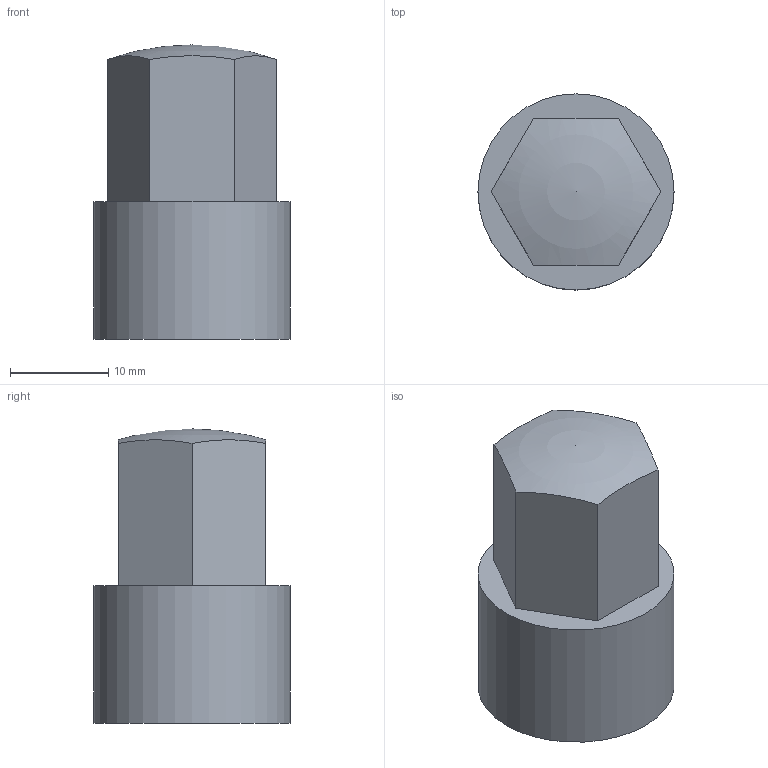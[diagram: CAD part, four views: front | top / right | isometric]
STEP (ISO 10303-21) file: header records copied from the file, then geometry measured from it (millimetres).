
FILE_DESCRIPTION(/* description */ (''),/* implementation_level */ '2;1');
FILE_NAME(/* name */ '033_Vite_regolaz.stp',/* time_stamp */ '2020-01-08T13:46:32+01:00',/* author */ (''),/* organization */ (''),/* preprocessor_version */ 'ST-DEVELOPER v16.7',/* originating_system */ 'SIEMENS PLM Software NX 12.0',/* authorisation */ '');
FILE_SCHEMA (('AUTOMOTIVE_DESIGN { 1 0 10303 214 3 1 1 1 }'));
Length unit declared in the file: millimetre
Products named in the file (1): bez2C70411Cqcyd
Bounding box: 20 x 20 x 30 mm (x, y, z)
Volume: 7396.9 mm3; surface area: 2280.1 mm2
Topology: 1 solids, 1 shells, 10 faces, 23 edges, 15 vertices
Faces by surface type: plane 8, cylinder 1, sphere 1
Full cylindrical faces by diameter (mm): 20 x1
Entity records: 304 total; most frequent: DIRECTION 50, CARTESIAN_POINT 46, ORIENTED_EDGE 40, EDGE_CURVE 20, AXIS2_PLACEMENT_3D 19, VERTEX_POINT 15, EDGE_LOOP 12, LINE 12
